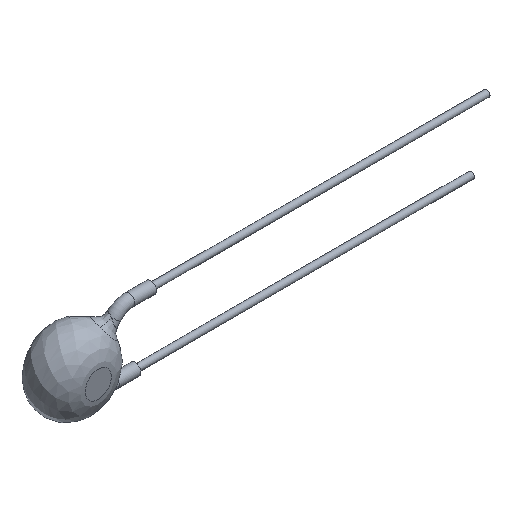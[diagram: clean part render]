
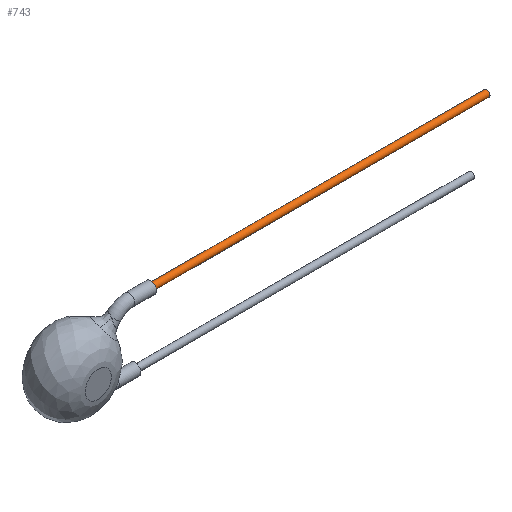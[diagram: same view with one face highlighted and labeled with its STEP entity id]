
A CAD part, isometric view. The second image highlights one B-rep face of the part: STEP entity #743.
In plain terms, the highlighted cylindrical face has radius 0.3 mm (diameter 0.6 mm), a full revolution.
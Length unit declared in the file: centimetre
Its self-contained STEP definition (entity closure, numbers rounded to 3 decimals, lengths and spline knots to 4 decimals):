
#694=CARTESIAN_POINT('',(0.675,-0.03,0.345));
#695=VERTEX_POINT('',#694);
#696=CARTESIAN_POINT('',(0.675,-0.03,0.375));
#697=DIRECTION('',(1.0,0.0,0.0));
#698=DIRECTION('',(0.0,1.0,0.0));
#699=AXIS2_PLACEMENT_3D('',#696,#697,#698);
#700=CIRCLE('',#699,0.03);
#701=EDGE_CURVE('',#695,#695,#700,.T.);
#724=CARTESIAN_POINT('',(3.875,-0.03,0.375));
#725=DIRECTION('',(-1.0,0.,0.));
#726=DIRECTION('',(0.0,1.0,0.0));
#727=AXIS2_PLACEMENT_3D('',#724,#725,#726);
#728=CYLINDRICAL_SURFACE('',#727,0.03);
#729=ORIENTED_EDGE('',*,*,#701,.T.);
#730=EDGE_LOOP('',(#729));
#731=FACE_OUTER_BOUND('',#730,.T.);
#732=CARTESIAN_POINT('',(3.875,-0.06,0.375));
#733=VERTEX_POINT('',#732);
#734=CARTESIAN_POINT('',(3.875,-0.03,0.375));
#735=DIRECTION('',(1.0,0.0,0.0));
#736=DIRECTION('',(0.0,1.0,0.0));
#737=AXIS2_PLACEMENT_3D('',#734,#735,#736);
#738=CIRCLE('',#737,0.03);
#739=EDGE_CURVE('',#733,#733,#738,.T.);
#740=ORIENTED_EDGE('',*,*,#739,.F.);
#741=EDGE_LOOP('',(#740));
#742=FACE_BOUND('',#741,.T.);
#743=ADVANCED_FACE('',(#731,#742),#728,.T.);
